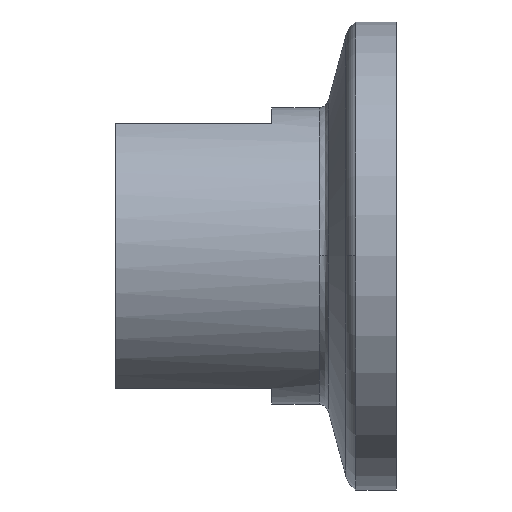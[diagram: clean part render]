
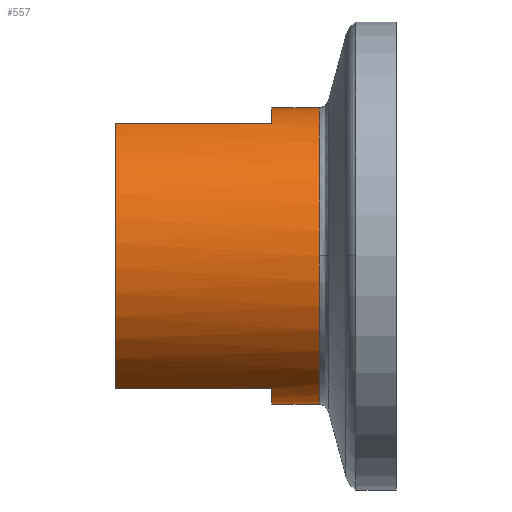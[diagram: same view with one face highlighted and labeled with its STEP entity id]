
A CAD part, top view. The second image highlights one B-rep face of the part: STEP entity #557.
In plain terms, the highlighted cylindrical face has radius 9.5 mm (diameter 19 mm), a partial arc.
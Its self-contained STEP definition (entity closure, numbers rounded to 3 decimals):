
#473=CARTESIAN_POINT('',(6.763,0.0,0.0));
#474=DIRECTION('',(1.0,0.0,0.0));
#475=DIRECTION('',(0.0,1.0,0.0));
#476=AXIS2_PLACEMENT_3D('',#473,#474,#475);
#477=CYLINDRICAL_SURFACE('',#476,9.5);
#478=CARTESIAN_POINT('',(10.0,9.5,0.));
#479=VERTEX_POINT('',#478);
#480=CARTESIAN_POINT('',(13.066,9.5,0.0));
#481=VERTEX_POINT('',#480);
#482=CARTESIAN_POINT('',(10.0,9.5,0.));
#483=DIRECTION('',(1.0,0.0,0.0));
#484=VECTOR('',#483,3.066);
#485=LINE('',#482,#484);
#486=EDGE_CURVE('',#479,#481,#485,.T.);
#487=ORIENTED_EDGE('',*,*,#486,.F.);
#488=CARTESIAN_POINT('',(10.0,8.5,4.243));
#489=VERTEX_POINT('',#488);
#490=CARTESIAN_POINT('',(10.0,0.0,0.0));
#491=DIRECTION('',(1.0,0.0,0.0));
#492=DIRECTION('',(0.0,1.0,0.0));
#493=AXIS2_PLACEMENT_3D('',#490,#491,#492);
#494=CIRCLE('',#493,9.5);
#495=EDGE_CURVE('',#479,#489,#494,.T.);
#496=ORIENTED_EDGE('',*,*,#495,.T.);
#497=CARTESIAN_POINT('',(0.0,8.5,4.243));
#498=VERTEX_POINT('',#497);
#499=CARTESIAN_POINT('',(10.0,8.5,4.243));
#500=DIRECTION('',(-1.0,0.0,0.0));
#501=VECTOR('',#500,10.0);
#502=LINE('',#499,#501);
#503=EDGE_CURVE('',#489,#498,#502,.T.);
#504=ORIENTED_EDGE('',*,*,#503,.T.);
#505=CARTESIAN_POINT('',(0.0,-8.5,4.243));
#506=VERTEX_POINT('',#505);
#507=CARTESIAN_POINT('',(0.0,0.0,0.0));
#508=DIRECTION('',(1.0,0.0,0.0));
#509=DIRECTION('',(0.0,1.0,0.0));
#510=AXIS2_PLACEMENT_3D('',#507,#508,#509);
#511=CIRCLE('',#510,9.5);
#512=EDGE_CURVE('',#498,#506,#511,.T.);
#513=ORIENTED_EDGE('',*,*,#512,.T.);
#514=CARTESIAN_POINT('',(10.0,-8.5,4.243));
#515=VERTEX_POINT('',#514);
#516=CARTESIAN_POINT('',(0.0,-8.5,4.243));
#517=DIRECTION('',(1.0,0.0,0.0));
#518=VECTOR('',#517,10.0);
#519=LINE('',#516,#518);
#520=EDGE_CURVE('',#506,#515,#519,.T.);
#521=ORIENTED_EDGE('',*,*,#520,.T.);
#522=CARTESIAN_POINT('',(10.0,-9.5,0.));
#523=VERTEX_POINT('',#522);
#524=CARTESIAN_POINT('',(10.0,0.0,0.0));
#525=DIRECTION('',(1.0,0.0,0.0));
#526=DIRECTION('',(0.0,1.0,0.0));
#527=AXIS2_PLACEMENT_3D('',#524,#525,#526);
#528=CIRCLE('',#527,9.5);
#529=EDGE_CURVE('',#515,#523,#528,.T.);
#530=ORIENTED_EDGE('',*,*,#529,.T.);
#531=CARTESIAN_POINT('',(13.066,-9.5,0.));
#532=VERTEX_POINT('',#531);
#533=CARTESIAN_POINT('',(13.066,-9.5,0.));
#534=DIRECTION('',(-1.0,0.0,0.0));
#535=VECTOR('',#534,3.066);
#536=LINE('',#533,#535);
#537=EDGE_CURVE('',#532,#523,#536,.T.);
#538=ORIENTED_EDGE('',*,*,#537,.F.);
#539=CARTESIAN_POINT('',(13.066,0.,9.5));
#540=VERTEX_POINT('',#539);
#541=CARTESIAN_POINT('',(13.066,0.0,0.0));
#542=DIRECTION('',(1.0,0.0,0.0));
#543=DIRECTION('',(0.0,-1.0,0.0));
#544=AXIS2_PLACEMENT_3D('',#541,#542,#543);
#545=CIRCLE('',#544,9.5);
#546=EDGE_CURVE('',#540,#532,#545,.T.);
#547=ORIENTED_EDGE('',*,*,#546,.F.);
#548=CARTESIAN_POINT('',(13.066,0.0,0.0));
#549=DIRECTION('',(1.0,0.0,0.0));
#550=DIRECTION('',(0.0,-1.0,0.0));
#551=AXIS2_PLACEMENT_3D('',#548,#549,#550);
#552=CIRCLE('',#551,9.5);
#553=EDGE_CURVE('',#481,#540,#552,.T.);
#554=ORIENTED_EDGE('',*,*,#553,.F.);
#555=EDGE_LOOP('',(#487,#496,#504,#513,#521,#530,#538,#547,#554));
#556=FACE_OUTER_BOUND('',#555,.T.);
#557=ADVANCED_FACE('',(#556),#477,.T.);
